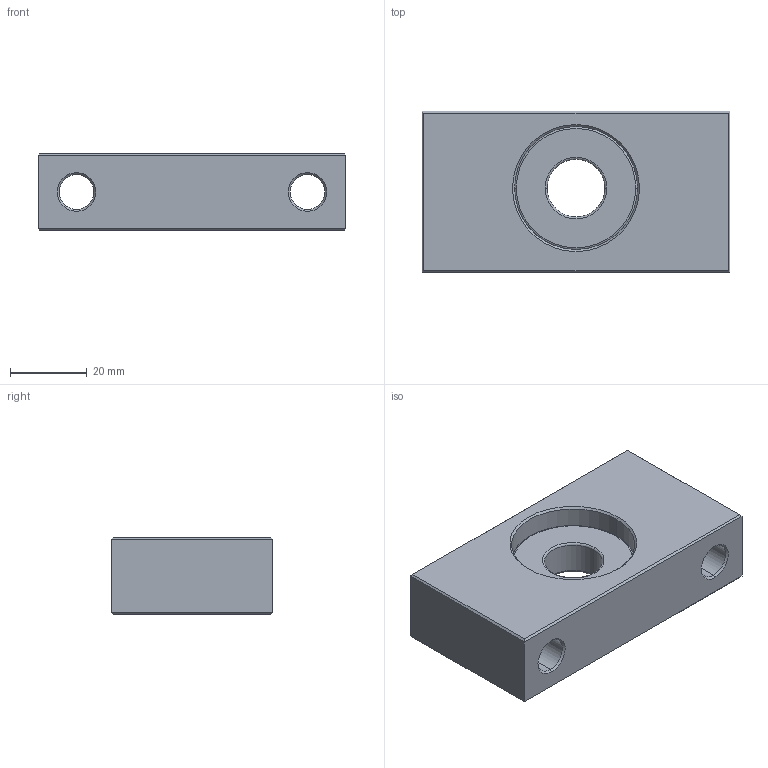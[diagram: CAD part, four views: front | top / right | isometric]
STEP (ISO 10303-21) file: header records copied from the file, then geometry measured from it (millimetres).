
FILE_DESCRIPTION (( 'STEP AP203' ), '1' );
FILE_NAME ('CSGF-15.STEP', '2013-03-03T01:25:31', ( 'Z77' ), ( '' ), 'SwSTEP 2.0', 'SolidWorks 2012', '' );
FILE_SCHEMA (( 'CONFIG_CONTROL_DESIGN' ));
Length unit declared in the file: millimetre
Products named in the file (1): CSGF-15
Bounding box: 80 x 42 x 20 mm (x, y, z)
Volume: 47685.7 mm3; surface area: 15420.1 mm2
Topology: 1 solids, 1 shells, 52 faces, 110 edges, 64 vertices
Faces by surface type: plane 18, cylinder 14, cone 12, torus 8
Entity records: 1475 total; most frequent: DIRECTION 272, CARTESIAN_POINT 227, ORIENTED_EDGE 220, EDGE_CURVE 110, AXIS2_PLACEMENT_3D 109, VERTEX_POINT 64, EDGE_LOOP 62, CIRCLE 56
